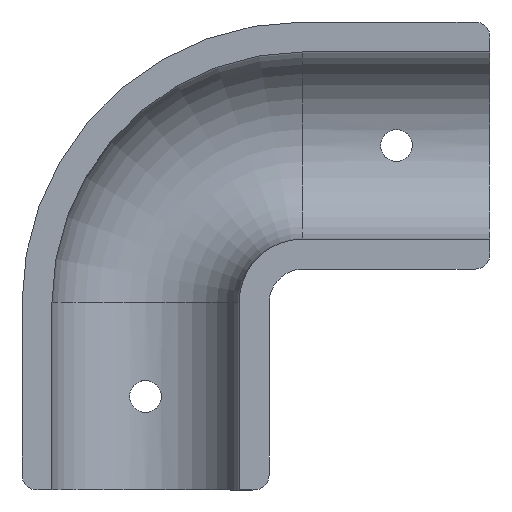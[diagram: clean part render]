
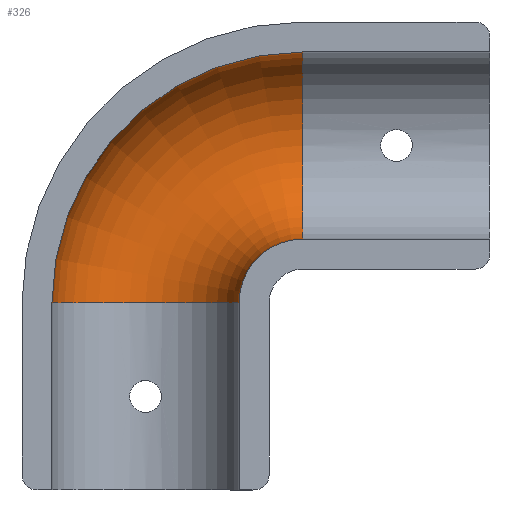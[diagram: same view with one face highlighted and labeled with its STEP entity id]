
A CAD part, front view. The second image highlights one B-rep face of the part: STEP entity #326.
In plain terms, the highlighted toroidal (fillet/blend) face has major radius 42 mm and minor radius 25 mm.
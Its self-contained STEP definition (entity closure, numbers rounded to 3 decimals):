
#88=FACE_OUTER_BOUND('',#111,.T.);
#111=EDGE_LOOP('',(#287,#288,#289,#290));
#122=CIRCLE('',#362,67.);
#130=CIRCLE('',#373,17.);
#135=CIRCLE('',#385,25.);
#137=CIRCLE('',#388,25.);
#149=VERTEX_POINT('',#552);
#150=VERTEX_POINT('',#554);
#161=VERTEX_POINT('',#618);
#162=VERTEX_POINT('',#620);
#183=EDGE_CURVE('',#149,#150,#122,.T.);
#199=EDGE_CURVE('',#161,#162,#130,.T.);
#213=EDGE_CURVE('',#149,#162,#135,.T.);
#215=EDGE_CURVE('',#150,#161,#137,.T.);
#287=ORIENTED_EDGE('',*,*,#215,.F.);
#288=ORIENTED_EDGE('',*,*,#183,.F.);
#289=ORIENTED_EDGE('',*,*,#213,.T.);
#290=ORIENTED_EDGE('',*,*,#199,.F.);
#311=TOROIDAL_SURFACE('',#387,42.,25.);
#326=ADVANCED_FACE('',(#88),#311,.F.);
#362=AXIS2_PLACEMENT_3D('',#555,#416,#417);
#373=AXIS2_PLACEMENT_3D('',#621,#444,#445);
#385=AXIS2_PLACEMENT_3D('',#717,#474,#475);
#387=AXIS2_PLACEMENT_3D('',#719,#478,#479);
#388=AXIS2_PLACEMENT_3D('',#720,#480,#481);
#416=DIRECTION('center_axis',(0.,1.,0.));
#417=DIRECTION('ref_axis',(0.,0.,-1.));
#444=DIRECTION('center_axis',(0.,-1.,0.));
#445=DIRECTION('ref_axis',(0.,0.,-1.));
#474=DIRECTION('center_axis',(0.,0.,-1.));
#475=DIRECTION('ref_axis',(1.,0.,0.));
#478=DIRECTION('center_axis',(0.,-1.,0.));
#479=DIRECTION('ref_axis',(0.,0.,-1.));
#480=DIRECTION('center_axis',(-1.,0.,0.));
#481=DIRECTION('ref_axis',(0.,0.,-1.));
#552=CARTESIAN_POINT('',(-54.5,0.,-12.5));
#554=CARTESIAN_POINT('',(12.5,0.,54.5));
#555=CARTESIAN_POINT('Origin',(12.5,0.,-12.5));
#618=CARTESIAN_POINT('',(12.5,0.,4.5));
#620=CARTESIAN_POINT('',(-4.5,0.,-12.5));
#621=CARTESIAN_POINT('Origin',(12.5,0.,-12.5));
#717=CARTESIAN_POINT('Origin',(-29.5,0.,-12.5));
#719=CARTESIAN_POINT('Origin',(12.5,0.,-12.5));
#720=CARTESIAN_POINT('Origin',(12.5,0.,29.5));
